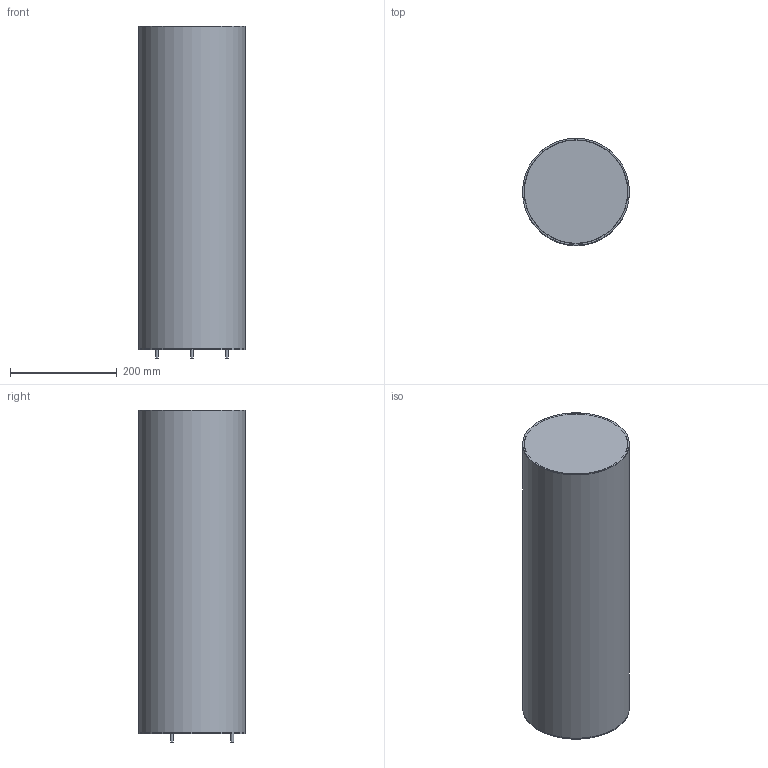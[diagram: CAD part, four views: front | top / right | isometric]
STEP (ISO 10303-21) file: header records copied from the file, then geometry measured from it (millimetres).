
FILE_DESCRIPTION(/* description */ (''),/* implementation_level */ '2;1');
FILE_NAME(/* name */ 'C:/Users/LukasGröber/GMS Cloud/Groeber Mannheim Lichtwerke - Dokumente/Marketing/Produkte/3D Daten/Apollo/Apollo 72.step',/* time_stamp */ '2022-07-06T12:35:33+02:00',/* author */ (''),/* organization */ (''),/* preprocessor_version */ 'ST-DEVELOPER v18.1',/* originating_system */ 'Autodesk Translation Framework v10.10.0.1391',/* authorisation */ '');
FILE_SCHEMA (('AUTOMOTIVE_DESIGN { 1 0 10303 214 3 1 1 }'));
Length unit declared in the file: millimetre
Products named in the file (4): Apollo 72; Fuß Apollo (Modell); Rohr Apollo 72 mit Deckel; Deckel Apollo
Assembly tree (3 placements, depth 3):
  Apollo 72
    Fuß Apollo (Modell)
    Rohr Apollo 72 mit Deckel
      Deckel Apollo
Bounding box: 200 x 200 x 621 mm (x, y, z)
Volume: 1951872.8 mm3; surface area: 892865.9 mm2
Topology: 3 solids, 3 shells, 21 faces, 29 edges, 19 vertices
Faces by surface type: plane 11, cylinder 9, cone 1
Full cylindrical faces by diameter (mm): 5 x3, 193 x1, 194 x2, 200 x3
Entity records: 585 total; most frequent: DIRECTION 104, CARTESIAN_POINT 76, ORIENTED_EDGE 58, AXIS2_PLACEMENT_3D 47, EDGE_CURVE 29, EDGE_LOOP 28, FACE_OUTER_BOUND 21, ADVANCED_FACE 21
